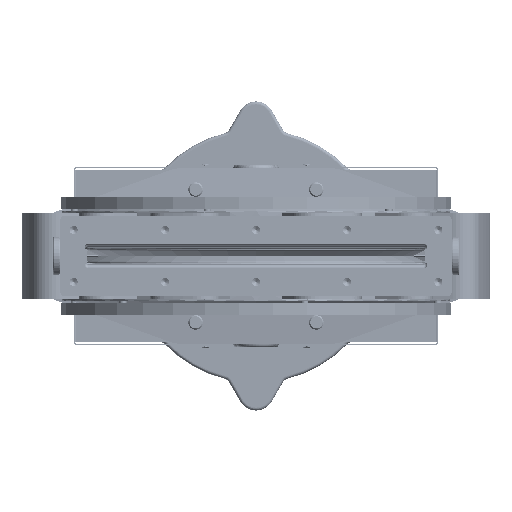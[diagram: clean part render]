
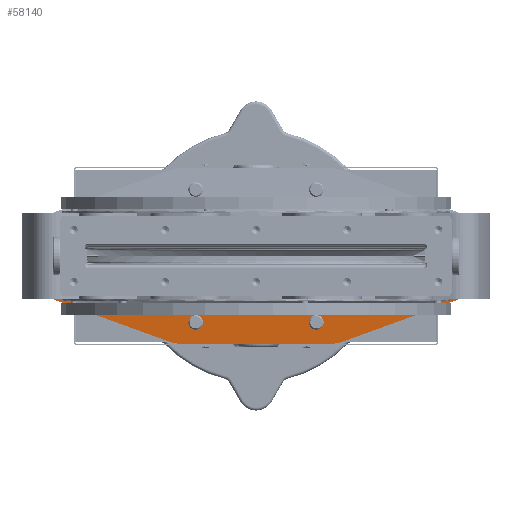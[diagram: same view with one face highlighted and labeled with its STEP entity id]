
A CAD part, front view. The second image highlights one B-rep face of the part: STEP entity #58140.
In plain terms, the highlighted planar face has unit normal (0, -0.996, -0.087).
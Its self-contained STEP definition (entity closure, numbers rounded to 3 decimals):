
#784=ELLIPSE('',#63363,38.145,38.);
#785=ELLIPSE('',#63364,38.145,38.);
#786=ELLIPSE('',#63365,15.057,15.);
#787=ELLIPSE('',#63366,15.057,15.);
#788=ELLIPSE('',#63367,15.057,15.);
#789=ELLIPSE('',#63368,15.057,15.);
#790=ELLIPSE('',#63369,6.023,6.);
#791=ELLIPSE('',#63370,6.544,6.494);
#792=ELLIPSE('',#63371,6.023,6.);
#793=ELLIPSE('',#63372,6.544,6.494);
#1927=FACE_BOUND('',#9259,.T.);
#1928=FACE_BOUND('',#9260,.T.);
#2691=PLANE('',#63362);
#5664=FACE_OUTER_BOUND('',#9258,.T.);
#9258=EDGE_LOOP('',(#43260,#43261,#43262,#43263,#43264,#43265,#43266,#43267,
#43268,#43269,#43270,#43271,#43272,#43273,#43274,#43275));
#9259=EDGE_LOOP('',(#43276,#43277));
#9260=EDGE_LOOP('',(#43278,#43279));
#16044=B_SPLINE_CURVE_WITH_KNOTS('',3,(#103982,#103983,#103984,#103985,
#103986,#103987),.UNSPECIFIED.,.F.,.F.,(4,2,4),(8.437,8.468,
8.474),.UNSPECIFIED.);
#16045=B_SPLINE_CURVE_WITH_KNOTS('',3,(#103995,#103996,#103997,#103998,
#103999,#104000),.UNSPECIFIED.,.F.,.F.,(4,2,4),(20.094,20.1,
20.131),.UNSPECIFIED.);
#17386=LINE('',#102513,#20291);
#17391=LINE('',#102523,#20296);
#17394=LINE('',#102531,#20299);
#17571=LINE('',#103889,#20476);
#17590=LINE('',#103991,#20495);
#17591=LINE('',#104001,#20496);
#17592=LINE('',#104006,#20497);
#17593=LINE('',#104010,#20498);
#20291=VECTOR('',#74348,1.);
#20296=VECTOR('',#74355,1.);
#20299=VECTOR('',#74362,1.);
#20476=VECTOR('',#74969,1.);
#20495=VECTOR('',#75050,1.);
#20496=VECTOR('',#75053,1.);
#20497=VECTOR('',#75058,1.);
#20498=VECTOR('',#75061,1.);
#24573=VERTEX_POINT('',#102510);
#24574=VERTEX_POINT('',#102512);
#24577=VERTEX_POINT('',#102520);
#24578=VERTEX_POINT('',#102522);
#24581=VERTEX_POINT('',#102529);
#24922=VERTEX_POINT('',#103887);
#24923=VERTEX_POINT('',#103888);
#24954=VERTEX_POINT('',#103981);
#24955=VERTEX_POINT('',#103988);
#24956=VERTEX_POINT('',#103990);
#24957=VERTEX_POINT('',#103992);
#24958=VERTEX_POINT('',#103994);
#24959=VERTEX_POINT('',#104003);
#24960=VERTEX_POINT('',#104005);
#24961=VERTEX_POINT('',#104007);
#24962=VERTEX_POINT('',#104009);
#24963=VERTEX_POINT('',#104012);
#24964=VERTEX_POINT('',#104013);
#24965=VERTEX_POINT('',#104016);
#24966=VERTEX_POINT('',#104017);
#31160=EDGE_CURVE('',#24574,#24573,#17386,.T.);
#31165=EDGE_CURVE('',#24577,#24578,#17391,.T.);
#31169=EDGE_CURVE('',#24581,#24577,#17394,.T.);
#31535=EDGE_CURVE('',#24922,#24923,#17571,.F.);
#31574=EDGE_CURVE('',#24581,#24954,#16044,.T.);
#31575=EDGE_CURVE('',#24954,#24955,#784,.F.);
#31576=EDGE_CURVE('',#24955,#24956,#17590,.T.);
#31577=EDGE_CURVE('',#24956,#24957,#785,.F.);
#31578=EDGE_CURVE('',#24957,#24958,#16045,.T.);
#31579=EDGE_CURVE('',#24574,#24958,#17591,.T.);
#31580=EDGE_CURVE('',#24573,#24922,#786,.T.);
#31581=EDGE_CURVE('',#24923,#24959,#787,.T.);
#31582=EDGE_CURVE('',#24959,#24960,#17592,.T.);
#31583=EDGE_CURVE('',#24960,#24961,#788,.T.);
#31584=EDGE_CURVE('',#24961,#24962,#17593,.F.);
#31585=EDGE_CURVE('',#24962,#24578,#789,.T.);
#31586=EDGE_CURVE('',#24963,#24964,#790,.T.);
#31587=EDGE_CURVE('',#24964,#24963,#791,.T.);
#31588=EDGE_CURVE('',#24965,#24966,#792,.T.);
#31589=EDGE_CURVE('',#24966,#24965,#793,.T.);
#43260=ORIENTED_EDGE('',*,*,#31169,.F.);
#43261=ORIENTED_EDGE('',*,*,#31574,.T.);
#43262=ORIENTED_EDGE('',*,*,#31575,.T.);
#43263=ORIENTED_EDGE('',*,*,#31576,.T.);
#43264=ORIENTED_EDGE('',*,*,#31577,.T.);
#43265=ORIENTED_EDGE('',*,*,#31578,.T.);
#43266=ORIENTED_EDGE('',*,*,#31579,.F.);
#43267=ORIENTED_EDGE('',*,*,#31160,.T.);
#43268=ORIENTED_EDGE('',*,*,#31580,.T.);
#43269=ORIENTED_EDGE('',*,*,#31535,.T.);
#43270=ORIENTED_EDGE('',*,*,#31581,.T.);
#43271=ORIENTED_EDGE('',*,*,#31582,.T.);
#43272=ORIENTED_EDGE('',*,*,#31583,.T.);
#43273=ORIENTED_EDGE('',*,*,#31584,.T.);
#43274=ORIENTED_EDGE('',*,*,#31585,.T.);
#43275=ORIENTED_EDGE('',*,*,#31165,.F.);
#43276=ORIENTED_EDGE('',*,*,#31586,.T.);
#43277=ORIENTED_EDGE('',*,*,#31587,.T.);
#43278=ORIENTED_EDGE('',*,*,#31588,.T.);
#43279=ORIENTED_EDGE('',*,*,#31589,.T.);
#58140=ADVANCED_FACE('',(#5664,#1927,#1928),#2691,.T.);
#63362=AXIS2_PLACEMENT_3D('',#103980,#75046,#75047);
#63363=AXIS2_PLACEMENT_3D('',#103989,#75048,#75049);
#63364=AXIS2_PLACEMENT_3D('',#103993,#75051,#75052);
#63365=AXIS2_PLACEMENT_3D('',#104002,#75054,#75055);
#63366=AXIS2_PLACEMENT_3D('',#104004,#75056,#75057);
#63367=AXIS2_PLACEMENT_3D('',#104008,#75059,#75060);
#63368=AXIS2_PLACEMENT_3D('',#104011,#75062,#75063);
#63369=AXIS2_PLACEMENT_3D('',#104014,#75064,#75065);
#63370=AXIS2_PLACEMENT_3D('',#104015,#75066,#75067);
#63371=AXIS2_PLACEMENT_3D('',#104018,#75068,#75069);
#63372=AXIS2_PLACEMENT_3D('',#104019,#75070,#75071);
#74348=DIRECTION('',(0.,0.087,-0.996));
#74355=DIRECTION('',(0.,0.087,-0.996));
#74362=DIRECTION('',(1.,0.,0.));
#74969=DIRECTION('',(-0.939,-0.03,0.342));
#75046=DIRECTION('center_axis',(0.,-0.996,-0.087));
#75047=DIRECTION('ref_axis',(0.,-0.087,0.996));
#75048=DIRECTION('center_axis',(0.,-0.996,-0.087));
#75049=DIRECTION('ref_axis',(0.,-0.087,0.996));
#75050=DIRECTION('',(-1.,0.,0.));
#75051=DIRECTION('center_axis',(0.,-0.996,-0.087));
#75052=DIRECTION('ref_axis',(0.,-0.087,0.996));
#75053=DIRECTION('',(1.,0.,0.));
#75054=DIRECTION('center_axis',(0.,-0.996,-0.087));
#75055=DIRECTION('ref_axis',(0.,-0.087,0.996));
#75056=DIRECTION('center_axis',(0.,-0.996,-0.087));
#75057=DIRECTION('ref_axis',(0.,0.087,-0.996));
#75058=DIRECTION('',(1.,0.,0.));
#75059=DIRECTION('center_axis',(0.,-0.996,-0.087));
#75060=DIRECTION('ref_axis',(0.,-0.087,0.996));
#75061=DIRECTION('',(-0.939,0.03,-0.342));
#75062=DIRECTION('center_axis',(0.,-0.996,-0.087));
#75063=DIRECTION('ref_axis',(0.,0.087,-0.996));
#75064=DIRECTION('center_axis',(0.,0.996,0.087));
#75065=DIRECTION('ref_axis',(0.,-0.087,0.996));
#75066=DIRECTION('center_axis',(0.,0.996,0.087));
#75067=DIRECTION('ref_axis',(0.,-0.087,
0.996));
#75068=DIRECTION('center_axis',(0.,0.996,0.087));
#75069=DIRECTION('ref_axis',(0.,-0.087,0.996));
#75070=DIRECTION('center_axis',(0.,0.996,0.087));
#75071=DIRECTION('ref_axis',(0.,-0.087,
0.996));
#102510=CARTESIAN_POINT('',(-177.,217.594,-22.142));
#102512=CARTESIAN_POINT('',(-177.,217.,-15.35));
#102513=CARTESIAN_POINT('',(-177.,222.137,-74.063));
#102520=CARTESIAN_POINT('',(177.,217.,-15.35));
#102522=CARTESIAN_POINT('',(177.,217.594,-22.142));
#102523=CARTESIAN_POINT('',(177.,217.,-15.35));
#102529=CARTESIAN_POINT('',(172.578,217.,-15.35));
#102531=CARTESIAN_POINT('',(-368621.5,217.,-15.35));
#103887=CARTESIAN_POINT('',(-167.13,218.827,-36.238));
#103888=CARTESIAN_POINT('',(-69.985,221.921,-71.596));
#103889=CARTESIAN_POINT('',(-325236.231,-10132.435,118279.239));
#103980=CARTESIAN_POINT('Origin',(-368621.5,217.,-15.35));
#103981=CARTESIAN_POINT('',(172.196,216.994,-15.28));
#103982=CARTESIAN_POINT('Ctrl Pts',(172.578,217.,-15.35));
#103983=CARTESIAN_POINT('Ctrl Pts',(172.474,217.,-15.35));
#103984=CARTESIAN_POINT('Ctrl Pts',(172.351,216.998,-15.332));
#103985=CARTESIAN_POINT('Ctrl Pts',(172.234,216.995,-15.294));
#103986=CARTESIAN_POINT('Ctrl Pts',(172.215,216.995,-15.288));
#103987=CARTESIAN_POINT('Ctrl Pts',(172.196,216.994,-15.28));
#103988=CARTESIAN_POINT('',(137.,219.065,-38.954));
#103989=CARTESIAN_POINT('Origin',(137.,215.741,-0.954));
#103990=CARTESIAN_POINT('',(-137.,219.065,-38.954));
#103991=CARTESIAN_POINT('',(-368621.5,219.065,-38.954));
#103992=CARTESIAN_POINT('',(-172.196,216.994,-15.28));
#103993=CARTESIAN_POINT('Origin',(-137.,215.741,-0.954));
#103994=CARTESIAN_POINT('',(-172.578,217.,-15.35));
#103995=CARTESIAN_POINT('Ctrl Pts',(-172.196,216.994,-15.28));
#103996=CARTESIAN_POINT('Ctrl Pts',(-172.215,216.995,-15.288));
#103997=CARTESIAN_POINT('Ctrl Pts',(-172.234,216.995,
-15.294));
#103998=CARTESIAN_POINT('Ctrl Pts',(-172.351,216.998,
-15.332));
#103999=CARTESIAN_POINT('Ctrl Pts',(-172.474,217.,-15.35));
#104000=CARTESIAN_POINT('Ctrl Pts',(-172.578,217.,-15.35));
#104001=CARTESIAN_POINT('',(-368621.5,217.,-15.35));
#104002=CARTESIAN_POINT('Origin',(-162.,217.594,-22.142));
#104003=CARTESIAN_POINT('',(-64.855,222.,-72.5));
#104004=CARTESIAN_POINT('Origin',(-64.855,220.688,-57.5));
#104005=CARTESIAN_POINT('',(64.855,222.,-72.5));
#104006=CARTESIAN_POINT('',(-368621.5,222.,-72.5));
#104007=CARTESIAN_POINT('',(69.985,221.921,-71.596));
#104008=CARTESIAN_POINT('Origin',(64.855,220.688,-57.5));
#104009=CARTESIAN_POINT('',(167.13,218.827,-36.238));
#104010=CARTESIAN_POINT('',(-325183.349,10579.05,-118454.128));
#104011=CARTESIAN_POINT('Origin',(162.,217.594,-22.142));
#104012=CARTESIAN_POINT('',(-47.304,220.,-49.64));
#104013=CARTESIAN_POINT('',(-52.696,220.,-49.64));
#104014=CARTESIAN_POINT('Origin',(-50.,220.469,-55.));
#104015=CARTESIAN_POINT('Origin',(-50.,220.519,-55.57));
#104016=CARTESIAN_POINT('',(52.696,220.,-49.64));
#104017=CARTESIAN_POINT('',(47.304,220.,-49.64));
#104018=CARTESIAN_POINT('Origin',(50.,220.469,-55.));
#104019=CARTESIAN_POINT('Origin',(50.,220.519,-55.57));
